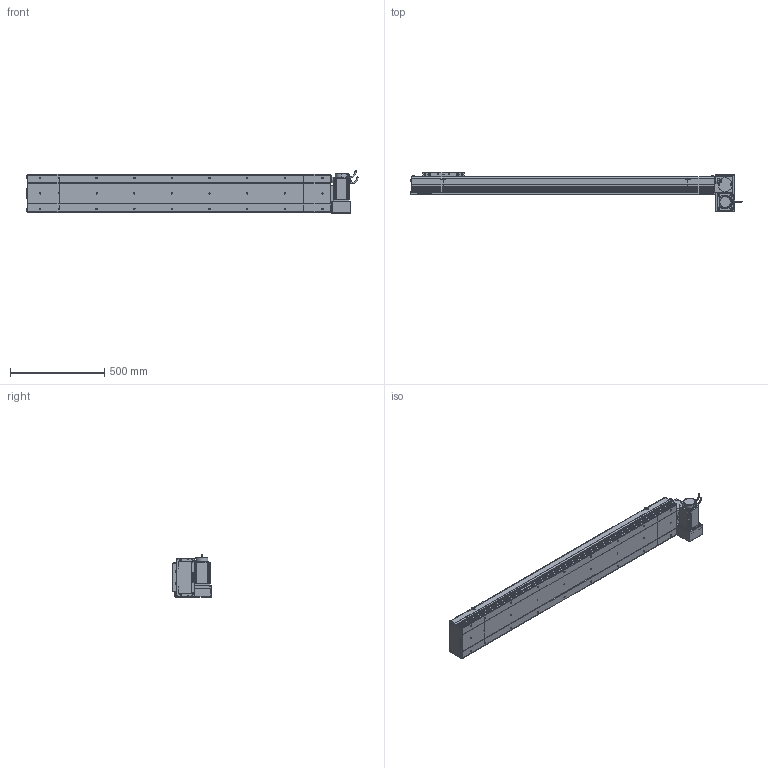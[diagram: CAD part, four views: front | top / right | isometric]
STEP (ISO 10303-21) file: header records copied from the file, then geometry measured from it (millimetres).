
FILE_DESCRIPTION (( 'STEP AP214' ), '1' );
FILE_NAME ('D20 CBH RU S1300.STEP', '2010-06-30T08:59:06', ( 'Conseil Régional Haute-Normandie' ), ( 'Conseil Régional Haute-Normandie' ), 'SwSTEP 2.0', 'SolidWorks 2010', '' );
FILE_SCHEMA (( 'AUTOMOTIVE_DESIGN' ));
Length unit declared in the file: millimetre
Products named in the file (31): Support Chariot D20_Default; Chariot D20_Default; Couvercle_Default; Corp Tail D20+100_Default; Tail D20+100_Default; vis M5 L15_Default; Plaque De Serrage D20_Default; Plaque de Bout Tail D20_Default; Couvercle S1300_Default; Corp S1300_Default; Corp D20 S1300_Default; Glissiere_Default; D20 CBH RU S1300; Support moteur RU_Default; Plaque de Bout Head D20 RU_Default; Head RU_Default; Plaque De Serrage D20 RU_Default; Couvercle RU_Default; Corp Tail D20 RU_Default; Moteur motionking 90BLDC125A-640; Rondelle Cache D20 RU_Default; Cache Support Moteur RU_Default; codeur 90BLDC125-640; corps 90BLDC125A-640; avant 90BLDC125A-640; vis M5 L30_Default; Conecteur_Default; Conecteur2_Default; vis M5 L47_Default; ecrou_Default
Assembly tree (66 placements, depth 4):
  D20 CBH RU S1300
    Corp D20 S1300_Default
      Couvercle S1300_Default
      Corp S1300_Default
    Head RU_Default
      vis M5 L47_Default  x4
      Plaque de Bout Head D20 RU_Default
      Rondelle Cache D20 RU_Default  x3
      vis M5 L15_Default  x12
      vis M5 L30_Default  x4
      Plaque De Serrage D20 RU_Default
      Couvercle RU_Default
      Cache Support Moteur RU_Default
      ecrou_Default  x4
      Corp Tail D20 RU_Default
      Moteur motionking 90BLDC125A-640
        Conecteur_Default
        corps 90BLDC125A-640
        Conecteur2_Default
        codeur 90BLDC125-640
        avant 90BLDC125A-640
      Support moteur RU_Default
    Tail D20+100_Default
      Couvercle_Default
      vis M5 L15_Default  x6
      Corp Tail D20+100_Default
      Plaque de Bout Tail D20_Default
      Plaque De Serrage D20_Default
    Chariot D20_Default
      Support Chariot D20_Default
      vis M5 L15_Default  x8
      Glissiere_Default
      Chariot D20_Default
Bounding box: 1764.45 x 209 x 229.7 mm (x, y, z)
Volume: 12500858.4 mm3; surface area: 2494075.1 mm2
Topology: 103 solids, 103 shells, 3745 faces, 9362 edges, 6082 vertices
Faces by surface type: plane 2090, bspline 806, cylinder 686, torus 91, cone 68, sphere 4
Entity records: 158854 total; most frequent: CARTESIAN_POINT 82227, ORIENTED_EDGE 15192, DIRECTION 11490, EDGE_CURVE 7596, VERTEX_POINT 5026, LINE 4936, VECTOR 4936, AXIS2_PLACEMENT_3D 3277
